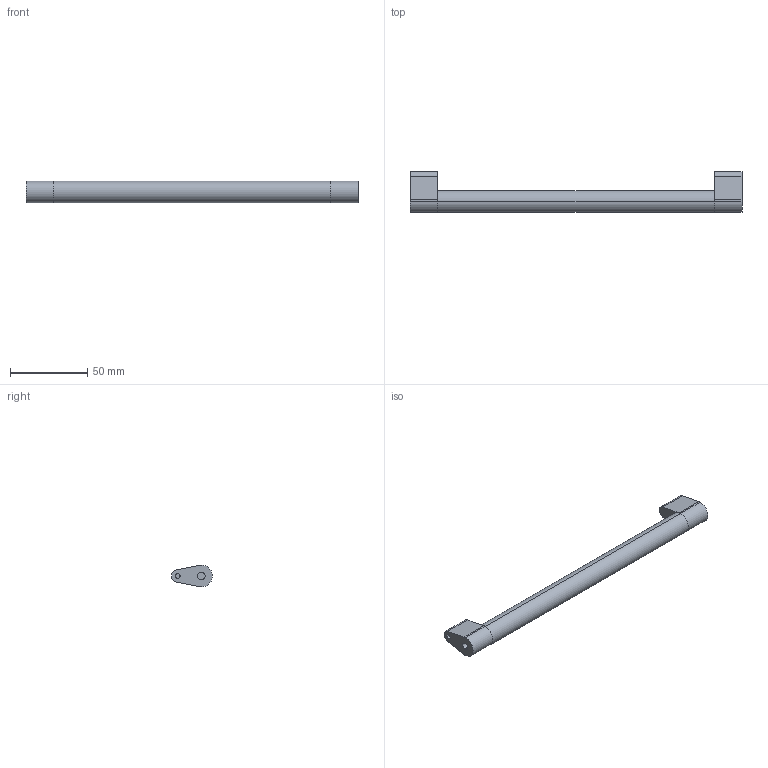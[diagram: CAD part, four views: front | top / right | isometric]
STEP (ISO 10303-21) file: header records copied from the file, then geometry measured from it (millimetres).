
FILE_DESCRIPTION (( 'STEP AP214' ), '1' );
FILE_NAME ('_Synchronisationseinheit Nova Pro KAB300_S16.step', '2010-07-08T13:58:25', ( 'grass' ), ( '' ), 'SwSTEP 2.0', 'SolidWorks 2010', '' );
FILE_SCHEMA (( 'AUTOMOTIVE_DESIGN' ));
Length unit declared in the file: millimetre
Products named in the file (1): _Synchronisationseinheit Nova Pro KAB300_S16
Bounding box: 215 x 26.5 x 14 mm (x, y, z)
Volume: 36783.5 mm3; surface area: 12303.2 mm2
Topology: 3 solids, 3 shells, 36 faces, 78 edges, 52 vertices
Faces by surface type: cylinder 18, plane 18
Entity records: 1050 total; most frequent: DIRECTION 188, CARTESIAN_POINT 167, ORIENTED_EDGE 156, EDGE_CURVE 78, AXIS2_PLACEMENT_3D 73, VERTEX_POINT 52, LINE 42, VECTOR 42
